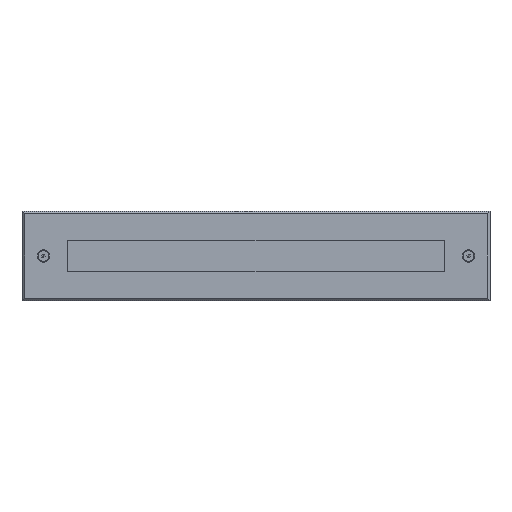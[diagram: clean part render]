
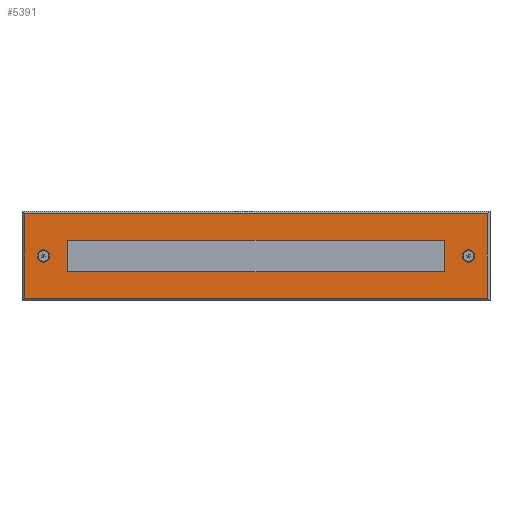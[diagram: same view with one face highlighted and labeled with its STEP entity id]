
A CAD part, front view. The second image highlights one B-rep face of the part: STEP entity #5391.
In plain terms, the highlighted planar face has unit normal (0, -1, 0) as drawn and (0, 1, 0) by its records, which use the part's own axes.
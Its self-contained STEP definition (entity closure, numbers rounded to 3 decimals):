
#3957=DIRECTION('',(1.,0.,0.));
#3958=VECTOR('',#3957,324.);
#3959=CARTESIAN_POINT('',(-162.,3.,-29.5));
#3960=LINE('',#3959,#3958);
#3965=DIRECTION('',(0.,0.,-1.));
#3966=VECTOR('',#3965,59.);
#3967=CARTESIAN_POINT('',(-162.,3.,29.5));
#3968=LINE('',#3967,#3966);
#3977=CARTESIAN_POINT('',(149.,3.,0.));
#3978=DIRECTION('',(0.,-1.,0.));
#3979=DIRECTION('',(0.,0.,-1.));
#3980=AXIS2_PLACEMENT_3D('',#3977,#3978,#3979);
#3982=CARTESIAN_POINT('',(149.,3.,0.));
#3983=DIRECTION('',(0.,-1.,0.));
#3984=DIRECTION('',(0.,0.,1.));
#3985=AXIS2_PLACEMENT_3D('',#3982,#3983,#3984);
#3987=CARTESIAN_POINT('',(-149.,3.,0.));
#3988=DIRECTION('',(0.,-1.,0.));
#3989=DIRECTION('',(0.,0.,-1.));
#3990=AXIS2_PLACEMENT_3D('',#3987,#3988,#3989);
#3992=CARTESIAN_POINT('',(-149.,3.,0.));
#3993=DIRECTION('',(0.,-1.,0.));
#3994=DIRECTION('',(0.,0.,1.));
#3995=AXIS2_PLACEMENT_3D('',#3992,#3993,#3994);
#3997=DIRECTION('',(-1.,0.,0.));
#3998=VECTOR('',#3997,264.);
#3999=CARTESIAN_POINT('',(132.,3.,11.));
#4000=LINE('',#3999,#3998);
#4001=DIRECTION('',(0.,0.,1.));
#4002=VECTOR('',#4001,22.);
#4003=CARTESIAN_POINT('',(132.,3.,-11.));
#4004=LINE('',#4003,#4002);
#4005=DIRECTION('',(1.,0.,0.));
#4006=VECTOR('',#4005,264.);
#4007=CARTESIAN_POINT('',(-132.,3.,-11.));
#4008=LINE('',#4007,#4006);
#4009=DIRECTION('',(0.,0.,-1.));
#4010=VECTOR('',#4009,22.);
#4011=CARTESIAN_POINT('',(-132.,3.,11.));
#4012=LINE('',#4011,#4010);
#4013=DIRECTION('',(-1.,0.,0.));
#4014=VECTOR('',#4013,324.);
#4015=CARTESIAN_POINT('',(162.,3.,29.5));
#4016=LINE('',#4015,#4014);
#4025=DIRECTION('',(0.,0.,1.));
#4026=VECTOR('',#4025,59.);
#4027=CARTESIAN_POINT('',(162.,3.,-29.5));
#4028=LINE('',#4027,#4026);
#4823=CARTESIAN_POINT('',(-132.,3.,-11.));
#4824=CARTESIAN_POINT('',(132.,3.,-11.));
#4825=VERTEX_POINT('',#4823);
#4826=VERTEX_POINT('',#4824);
#4873=CARTESIAN_POINT('',(-162.,3.,29.5));
#4874=CARTESIAN_POINT('',(-162.,3.,-29.5));
#4875=VERTEX_POINT('',#4873);
#4876=VERTEX_POINT('',#4874);
#4895=CARTESIAN_POINT('',(162.,3.,29.5));
#4896=VERTEX_POINT('',#4895);
#4905=CARTESIAN_POINT('',(-149.,3.,-4.3));
#4907=VERTEX_POINT('',#4905);
#4909=CARTESIAN_POINT('',(-149.,3.,4.3));
#4910=VERTEX_POINT('',#4909);
#4927=CARTESIAN_POINT('',(162.,3.,-29.5));
#4928=VERTEX_POINT('',#4927);
#4930=CARTESIAN_POINT('',(132.,3.,11.));
#4932=VERTEX_POINT('',#4930);
#4959=CARTESIAN_POINT('',(149.,3.,-4.3));
#4960=VERTEX_POINT('',#4959);
#4971=CARTESIAN_POINT('',(149.,3.,4.3));
#4972=VERTEX_POINT('',#4971);
#4999=CARTESIAN_POINT('',(-132.,3.,11.));
#5000=VERTEX_POINT('',#4999);
#5356=CARTESIAN_POINT('',(0.,3.,0.));
#5357=DIRECTION('',(0.,1.,0.));
#5358=DIRECTION('',(0.,0.,1.));
#5359=AXIS2_PLACEMENT_3D('',#5356,#5357,#5358);
#5360=PLANE('',#5359);
#5362=ORIENTED_EDGE('',*,*,#5361,.T.);
#5363=ORIENTED_EDGE('',*,*,#5348,.T.);
#5364=ORIENTED_EDGE('',*,*,#5337,.T.);
#5366=ORIENTED_EDGE('',*,*,#5365,.T.);
#5367=EDGE_LOOP('',(#5362,#5363,#5364,#5366));
#5368=FACE_OUTER_BOUND('',#5367,.F.);
#5370=ORIENTED_EDGE('',*,*,#5369,.F.);
#5372=ORIENTED_EDGE('',*,*,#5371,.F.);
#5373=EDGE_LOOP('',(#5370,#5372));
#5374=FACE_BOUND('',#5373,.F.);
#5376=ORIENTED_EDGE('',*,*,#5375,.F.);
#5378=ORIENTED_EDGE('',*,*,#5377,.F.);
#5379=EDGE_LOOP('',(#5376,#5378));
#5380=FACE_BOUND('',#5379,.F.);
#5382=ORIENTED_EDGE('',*,*,#5381,.F.);
#5384=ORIENTED_EDGE('',*,*,#5383,.F.);
#5386=ORIENTED_EDGE('',*,*,#5385,.F.);
#5388=ORIENTED_EDGE('',*,*,#5387,.F.);
#5389=EDGE_LOOP('',(#5382,#5384,#5386,#5388));
#5390=FACE_BOUND('',#5389,.F.);
#5391=ADVANCED_FACE('',(#5368,#5374,#5380,#5390),#5360,.T.);
#3981=CIRCLE('',#3980,4.3);
#3986=CIRCLE('',#3985,4.3);
#3991=CIRCLE('',#3990,4.3);
#3996=CIRCLE('',#3995,4.3);
#5337=EDGE_CURVE('',#4876,#4928,#3960,.T.);
#5348=EDGE_CURVE('',#4875,#4876,#3968,.T.);
#5361=EDGE_CURVE('',#4896,#4875,#4016,.T.);
#5365=EDGE_CURVE('',#4928,#4896,#4028,.T.);
#5369=EDGE_CURVE('',#4960,#4972,#3981,.T.);
#5371=EDGE_CURVE('',#4972,#4960,#3986,.T.);
#5375=EDGE_CURVE('',#4907,#4910,#3991,.T.);
#5377=EDGE_CURVE('',#4910,#4907,#3996,.T.);
#5381=EDGE_CURVE('',#4932,#5000,#4000,.T.);
#5383=EDGE_CURVE('',#4826,#4932,#4004,.T.);
#5385=EDGE_CURVE('',#4825,#4826,#4008,.T.);
#5387=EDGE_CURVE('',#5000,#4825,#4012,.T.);
